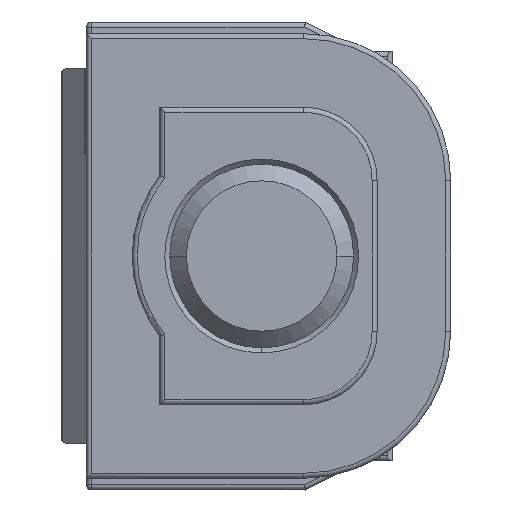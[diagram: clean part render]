
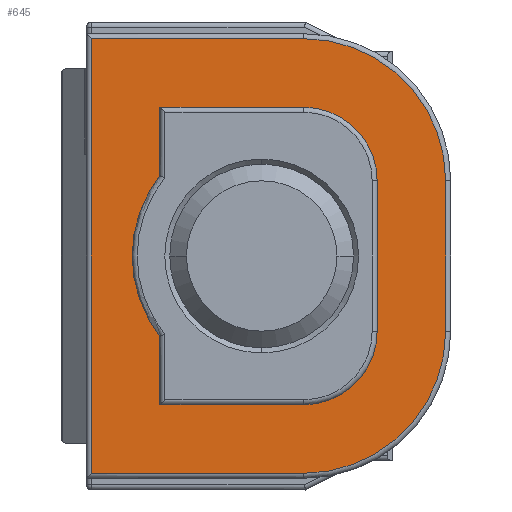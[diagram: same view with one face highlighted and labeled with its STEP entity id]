
A CAD part, front view. The second image highlights one B-rep face of the part: STEP entity #645.
In plain terms, the highlighted planar face has unit normal (0, -1, 0).
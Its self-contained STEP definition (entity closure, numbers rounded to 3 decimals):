
#171=FACE_BOUND('',#1257,.T.);
#172=FACE_BOUND('',#1258,.T.);
#354=CIRCLE('',#4676,7.75);
#362=CIRCLE('',#4694,8.5);
#363=CIRCLE('',#4695,8.5);
#364=CIRCLE('',#4696,4.4);
#365=CIRCLE('',#4697,4.4);
#645=ADVANCED_FACE('',(#171,#172),#835,.T.);
#835=PLANE('',#4698);
#1257=EDGE_LOOP('',(#2067,#2068,#2069,#2070,#2071,#2072));
#1258=EDGE_LOOP('',(#2073,#2074,#2075,#2076,#2077,#2078,#2079,#2080));
#2067=ORIENTED_EDGE('',*,*,#3432,.F.);
#2068=ORIENTED_EDGE('',*,*,#3433,.F.);
#2069=ORIENTED_EDGE('',*,*,#3434,.F.);
#2070=ORIENTED_EDGE('',*,*,#3435,.F.);
#2071=ORIENTED_EDGE('',*,*,#3436,.F.);
#2072=ORIENTED_EDGE('',*,*,#3437,.T.);
#2073=ORIENTED_EDGE('',*,*,#3417,.F.);
#2074=ORIENTED_EDGE('',*,*,#3411,.T.);
#2075=ORIENTED_EDGE('',*,*,#3431,.T.);
#2076=ORIENTED_EDGE('',*,*,#3438,.F.);
#2077=ORIENTED_EDGE('',*,*,#3439,.F.);
#2078=ORIENTED_EDGE('',*,*,#3440,.F.);
#2079=ORIENTED_EDGE('',*,*,#3441,.T.);
#2080=ORIENTED_EDGE('',*,*,#3414,.T.);
#2896=VERTEX_POINT('',#7086);
#2897=VERTEX_POINT('',#7088);
#2898=VERTEX_POINT('',#7092);
#2900=VERTEX_POINT('',#7095);
#2906=VERTEX_POINT('',#7133);
#2907=VERTEX_POINT('',#7137);
#2908=VERTEX_POINT('',#7138);
#2909=VERTEX_POINT('',#7140);
#2910=VERTEX_POINT('',#7142);
#2911=VERTEX_POINT('',#7144);
#2912=VERTEX_POINT('',#7146);
#2913=VERTEX_POINT('',#7149);
#2914=VERTEX_POINT('',#7151);
#2915=VERTEX_POINT('',#7153);
#3411=EDGE_CURVE('',#2897,#2896,#3949,.T.);
#3414=EDGE_CURVE('',#2900,#2898,#3952,.T.);
#3417=EDGE_CURVE('',#2897,#2898,#354,.T.);
#3431=EDGE_CURVE('',#2896,#2906,#3959,.T.);
#3432=EDGE_CURVE('',#2907,#2908,#3960,.T.);
#3433=EDGE_CURVE('',#2909,#2907,#362,.T.);
#3434=EDGE_CURVE('',#2910,#2909,#3961,.T.);
#3435=EDGE_CURVE('',#2911,#2910,#363,.T.);
#3436=EDGE_CURVE('',#2912,#2911,#3962,.T.);
#3437=EDGE_CURVE('',#2912,#2908,#3963,.T.);
#3438=EDGE_CURVE('',#2913,#2906,#364,.T.);
#3439=EDGE_CURVE('',#2914,#2913,#3964,.T.);
#3440=EDGE_CURVE('',#2915,#2914,#365,.T.);
#3441=EDGE_CURVE('',#2915,#2900,#3965,.T.);
#3949=LINE('',#7087,#4337);
#3952=LINE('',#7094,#4340);
#3959=LINE('',#7134,#4347);
#3960=LINE('',#7136,#4348);
#3961=LINE('',#7141,#4349);
#3962=LINE('',#7145,#4350);
#3963=LINE('',#7147,#4351);
#3964=LINE('',#7150,#4352);
#3965=LINE('',#7154,#4353);
#4337=VECTOR('',#5613,1.);
#4340=VECTOR('',#5618,1.);
#4347=VECTOR('',#5661,1.);
#4348=VECTOR('',#5664,1.);
#4349=VECTOR('',#5667,1.);
#4350=VECTOR('',#5670,1.);
#4351=VECTOR('',#5671,1.);
#4352=VECTOR('',#5674,1.);
#4353=VECTOR('',#5677,1.);
#4676=AXIS2_PLACEMENT_3D('',#7100,#5623,#5624);
#4694=AXIS2_PLACEMENT_3D('',#7139,#5665,#5666);
#4695=AXIS2_PLACEMENT_3D('',#7143,#5668,#5669);
#4696=AXIS2_PLACEMENT_3D('',#7148,#5672,#5673);
#4697=AXIS2_PLACEMENT_3D('',#7152,#5675,#5676);
#4698=AXIS2_PLACEMENT_3D('',#7155,#5678,#5679);
#5613=DIRECTION('',(0.,0.,1.));
#5618=DIRECTION('',(0.,0.,1.));
#5623=DIRECTION('',(0.,-1.,0.));
#5624=DIRECTION('',(-0.786,0.,0.618));
#5661=DIRECTION('',(1.,0.,0.));
#5664=DIRECTION('',(-1.,0.,0.));
#5665=DIRECTION('',(0.,1.,0.));
#5666=DIRECTION('',(1.,0.,0.));
#5667=DIRECTION('',(0.,0.,-1.));
#5668=DIRECTION('',(0.,1.,0.));
#5669=DIRECTION('',(0.,0.,1.));
#5670=DIRECTION('',(1.,0.,0.));
#5671=DIRECTION('',(0.,0.,-1.));
#5672=DIRECTION('',(0.,-1.,0.));
#5673=DIRECTION('',(1.,0.,0.));
#5674=DIRECTION('',(0.,0.,1.));
#5675=DIRECTION('',(0.,-1.,0.));
#5676=DIRECTION('',(0.,0.,-1.));
#5677=DIRECTION('',(-1.,0.,0.));
#5678=DIRECTION('',(0.,-1.,0.));
#5679=DIRECTION('',(0.,0.,1.));
#7086=CARTESIAN_POINT('',(-5.1,-20.4,8.9));
#7087=CARTESIAN_POINT('',(-5.1,-20.4,4.793));
#7088=CARTESIAN_POINT('',(-5.1,-20.4,4.793));
#7092=CARTESIAN_POINT('',(-5.1,-20.4,-4.793));
#7094=CARTESIAN_POINT('',(-5.1,-20.4,-8.9));
#7095=CARTESIAN_POINT('',(-5.1,-20.4,-8.9));
#7100=CARTESIAN_POINT('',(0.99,-20.4,0.));
#7133=CARTESIAN_POINT('',(3.5,-20.4,8.9));
#7134=CARTESIAN_POINT('',(-5.1,-20.4,8.9));
#7136=CARTESIAN_POINT('',(3.5,-20.4,-13.));
#7137=CARTESIAN_POINT('',(3.5,-20.4,-13.));
#7138=CARTESIAN_POINT('',(-9.2,-20.4,-13.));
#7139=CARTESIAN_POINT('',(3.5,-20.4,-4.5));
#7140=CARTESIAN_POINT('',(12.,-20.4,-4.5));
#7141=CARTESIAN_POINT('',(12.,-20.4,4.5));
#7142=CARTESIAN_POINT('',(12.,-20.4,4.5));
#7143=CARTESIAN_POINT('',(3.5,-20.4,4.5));
#7144=CARTESIAN_POINT('',(3.5,-20.4,13.));
#7145=CARTESIAN_POINT('',(-9.2,-20.4,13.));
#7146=CARTESIAN_POINT('',(-9.2,-20.4,13.));
#7147=CARTESIAN_POINT('',(-9.2,-20.4,13.));
#7148=CARTESIAN_POINT('',(3.5,-20.4,4.5));
#7149=CARTESIAN_POINT('',(7.9,-20.4,4.5));
#7150=CARTESIAN_POINT('',(7.9,-20.4,-4.5));
#7151=CARTESIAN_POINT('',(7.9,-20.4,-4.5));
#7152=CARTESIAN_POINT('',(3.5,-20.4,-4.5));
#7153=CARTESIAN_POINT('',(3.5,-20.4,-8.9));
#7154=CARTESIAN_POINT('',(3.5,-20.4,-8.9));
#7155=CARTESIAN_POINT('',(-9.5,-20.4,0.));
